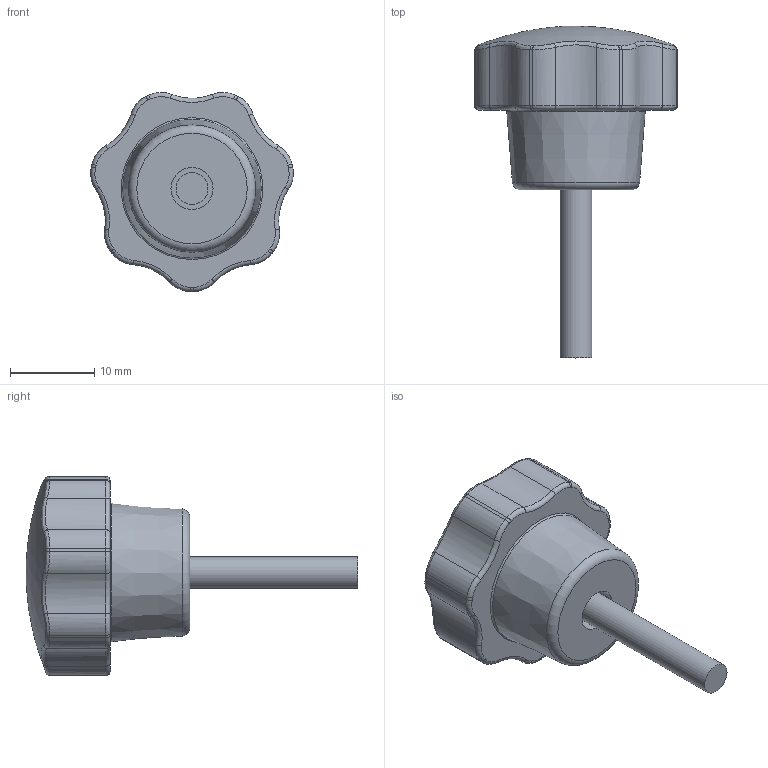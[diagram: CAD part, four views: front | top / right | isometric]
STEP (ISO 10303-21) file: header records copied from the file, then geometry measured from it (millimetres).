
FILE_DESCRIPTION(/* description */ (''),/* implementation_level */ '2;1');
FILE_NAME(/* name */ '\\SYNOLOGYNAS\web\db2\MSKB_M\MSKB4\도면\MSKB-M4-20.stp',/* time_stamp */ '2024-04-09T16:17:55+09:00',/* author */ ('user'),/* organization */ (''),/* preprocessor_version */ 'ST-DEVELOPER v15.6',/* originating_system */ 'Autodesk Inventor 2015',/* authorisation */ '');
FILE_SCHEMA (('AUTOMOTIVE_DESIGN { 1 0 10303 214 3 1 1 }'));
Length unit declared in the file: millimetre
Products named in the file (1): MSKB-M4-20
Bounding box: 24.11 x 39.5 x 23.68 mm (x, y, z)
Volume: 5737.2 mm3; surface area: 2213.6 mm2
Topology: 1 solids, 1 shells, 94 faces, 212 edges, 122 vertices
Faces by surface type: torus 37, cylinder 30, bspline 22, plane 4, cone 1
Full cylindrical faces by diameter (mm): 3.8 x1, 5 x1
Entity records: 3069 total; most frequent: CARTESIAN_POINT 1025, DIRECTION 444, ORIENTED_EDGE 412, AXIS2_PLACEMENT_3D 208, EDGE_CURVE 206, CIRCLE 135, VERTEX_POINT 122, EDGE_LOOP 102
